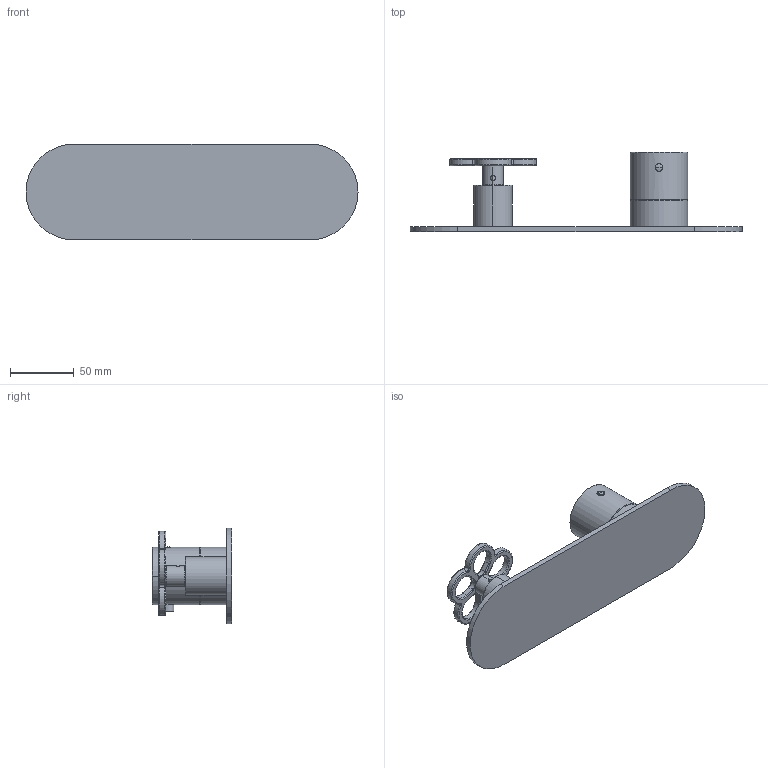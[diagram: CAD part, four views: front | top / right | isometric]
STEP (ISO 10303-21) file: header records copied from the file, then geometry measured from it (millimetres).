
FILE_DESCRIPTION((''),'2;1');
FILE_NAME('20930T772B000000_SW0001','2023-01-31T17:47:24',('matteo.follador'),(''),'CREO PARAMETRIC BY PTC INC, 2020281','CREO PARAMETRIC BY PTC INC, 2020281','');
FILE_SCHEMA(('AUTOMOTIVE_DESIGN { 1 0 10303 214 1 1 1 1 }'));
Length unit declared in the file: millimetre
Products named in the file (1): 20930T772B000000_SW0001
Bounding box: 260 x 62.3 x 75 mm (x, y, z)
Volume: 161336.6 mm3; surface area: 72505.5 mm2
Topology: 5 solids, 7 shells, 867 faces, 2289 edges, 1477 vertices
Faces by surface type: plane 617, cylinder 126, torus 64, cone 42, bspline 16, sphere 2
Entity records: 35640 total; most frequent: CARTESIAN_POINT 7804, ORIENTED_EDGE 4574, DIRECTION 4312, EDGE_CURVE 2287, VECTOR 1817, LINE 1817, VERTEX_POINT 1477, AXIS2_PLACEMENT_3D 1246
